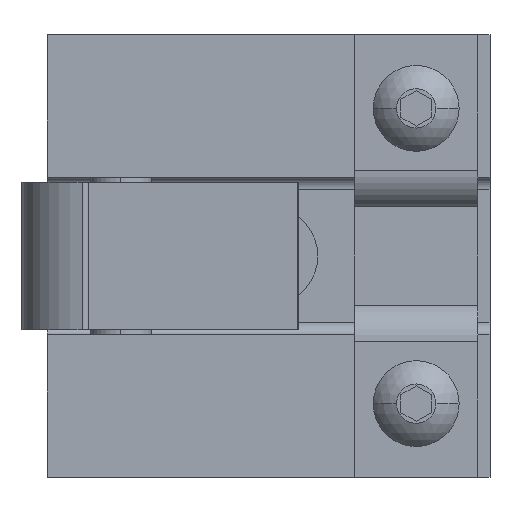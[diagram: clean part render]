
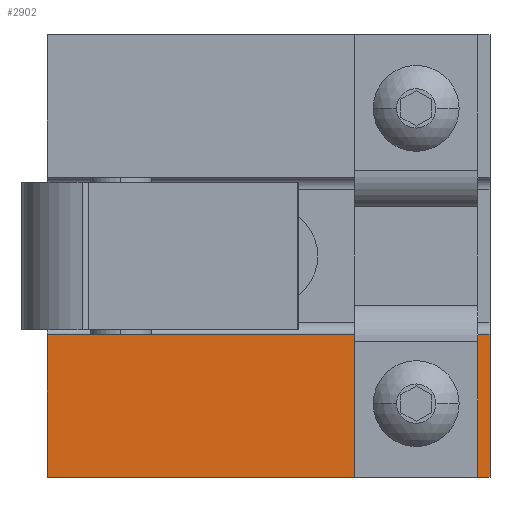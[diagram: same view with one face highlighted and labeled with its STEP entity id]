
A CAD part, left-side view. The second image highlights one B-rep face of the part: STEP entity #2902.
In plain terms, the highlighted planar face has unit normal (-1, 0, 0).
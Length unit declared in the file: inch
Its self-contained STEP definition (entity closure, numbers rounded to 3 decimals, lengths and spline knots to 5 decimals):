
#1839 = EDGE_CURVE ( 'NONE', #1901, #2026, #15037, .T. ) ;
#1873 = EDGE_CURVE ( 'NONE', #1947, #1896, #15080, .T. ) ;
#1896 = VERTEX_POINT ( 'NONE', #15324 ) ;
#1901 = VERTEX_POINT ( 'NONE', #15394 ) ;
#1947 = VERTEX_POINT ( 'NONE', #15276 ) ;
#2026 = VERTEX_POINT ( 'NONE', #20339 ) ;
#2516 = ORIENTED_EDGE ( 'NONE', *, *, #2517, .F. ) ;
#2517 = EDGE_CURVE ( 'NONE', #1896, #2518, #16108, .T. ) ;
#2518 = VERTEX_POINT ( 'NONE', #16097 ) ;
#2519 = EDGE_LOOP ( 'NONE', ( #2516, #2610, #2611, #2531 ) ) ;
#2531 = ORIENTED_EDGE ( 'NONE', *, *, #2532, .T. ) ;
#2532 = EDGE_CURVE ( 'NONE', #2613, #2518, #16085, .T. ) ;
#2610 = ORIENTED_EDGE ( 'NONE', *, *, #1873, .F. ) ;
#2611 = ORIENTED_EDGE ( 'NONE', *, *, #2612, .T. ) ;
#2612 = EDGE_CURVE ( 'NONE', #1947, #2613, #16560, .T. ) ;
#2613 = VERTEX_POINT ( 'NONE', #16614 ) ;
#2627 = ORIENTED_EDGE ( 'NONE', *, *, #2628, .F. ) ;
#2628 = EDGE_CURVE ( 'NONE', #2026, #1901, #16626, .T. ) ;
#2629 = ORIENTED_EDGE ( 'NONE', *, *, #1839, .F. ) ;
#2836 = EDGE_LOOP ( 'NONE', ( #2627, #2629 ) ) ;
#2902 = ADVANCED_FACE ( 'NONE', ( #17061, #17042 ), #17041, .T. ) ;
#13769 = CARTESIAN_POINT ( 'NONE',  ( 2.43951, 4.12904, -1.875 ) ) ;
#14201 = DIRECTION ( 'NONE',  ( -1., 0., 0. ) ) ;
#14298 = DIRECTION ( 'NONE',  ( 0., 0., 1. ) ) ;
#15037 = CIRCLE ( 'NONE', #15041, 0.125 ) ;
#15041 = AXIS2_PLACEMENT_3D ( 'NONE', #13769, #14201, #14298 ) ;
#15077 = DIRECTION ( 'NONE',  ( 0., 0., 1. ) ) ;
#15078 = VECTOR ( 'NONE', #15077, 39.37008 ) ;
#15079 = CARTESIAN_POINT ( 'NONE',  ( 2.43951, 6.00404, -2.25 ) ) ;
#15080 = LINE ( 'NONE', #15079, #15078 ) ;
#15276 = CARTESIAN_POINT ( 'NONE',  ( 2.43951, 6.00404, -2.25 ) ) ;
#15324 = CARTESIAN_POINT ( 'NONE',  ( 2.43951, 6.00404, -1.525 ) ) ;
#15394 = CARTESIAN_POINT ( 'NONE',  ( 2.43951, 4.12904, -2. ) ) ;
#16082 = DIRECTION ( 'NONE',  ( 0., 0., 1. ) ) ;
#16083 = VECTOR ( 'NONE', #16082, 39.37008 ) ;
#16084 = CARTESIAN_POINT ( 'NONE',  ( 2.43951, 3.75404, -2.25 ) ) ;
#16085 = LINE ( 'NONE', #16084, #16083 ) ;
#16097 = CARTESIAN_POINT ( 'NONE',  ( 2.43951, 3.75404, -1.525 ) ) ;
#16105 = DIRECTION ( 'NONE',  ( 0., -1., 0. ) ) ;
#16106 = VECTOR ( 'NONE', #16105, 39.37008 ) ;
#16107 = CARTESIAN_POINT ( 'NONE',  ( 2.43951, 3.75404, -1.525 ) ) ;
#16108 = LINE ( 'NONE', #16107, #16106 ) ;
#16558 = VECTOR ( 'NONE', #16615, 39.37008 ) ;
#16559 = CARTESIAN_POINT ( 'NONE',  ( 2.43951, 3.75404, -2.25 ) ) ;
#16560 = LINE ( 'NONE', #16559, #16558 ) ;
#16614 = CARTESIAN_POINT ( 'NONE',  ( 2.43951, 3.75404, -2.25 ) ) ;
#16615 = DIRECTION ( 'NONE',  ( 0., -1., 0. ) ) ;
#16626 = CIRCLE ( 'NONE', #16662, 0.125 ) ;
#16659 = DIRECTION ( 'NONE',  ( 0., 0., 1. ) ) ;
#16660 = DIRECTION ( 'NONE',  ( -1., 0., 0. ) ) ;
#16661 = CARTESIAN_POINT ( 'NONE',  ( 2.43951, 4.12904, -1.875 ) ) ;
#16662 = AXIS2_PLACEMENT_3D ( 'NONE', #16661, #16660, #16659 ) ;
#17036 = DIRECTION ( 'NONE',  ( 0., 0., 1. ) ) ;
#17037 = DIRECTION ( 'NONE',  ( -1., 0., 0. ) ) ;
#17038 = CARTESIAN_POINT ( 'NONE',  ( 2.43951, 3.75404, -2.25 ) ) ;
#17040 = AXIS2_PLACEMENT_3D ( 'NONE', #17038, #17037, #17036 ) ;
#17041 = PLANE ( 'NONE',  #17040 ) ;
#17042 = FACE_OUTER_BOUND ( 'NONE', #2519, .T. ) ;
#17061 = FACE_BOUND ( 'NONE', #2836, .T. ) ;
#20339 = CARTESIAN_POINT ( 'NONE',  ( 2.43951, 4.12904, -1.75 ) ) ;
